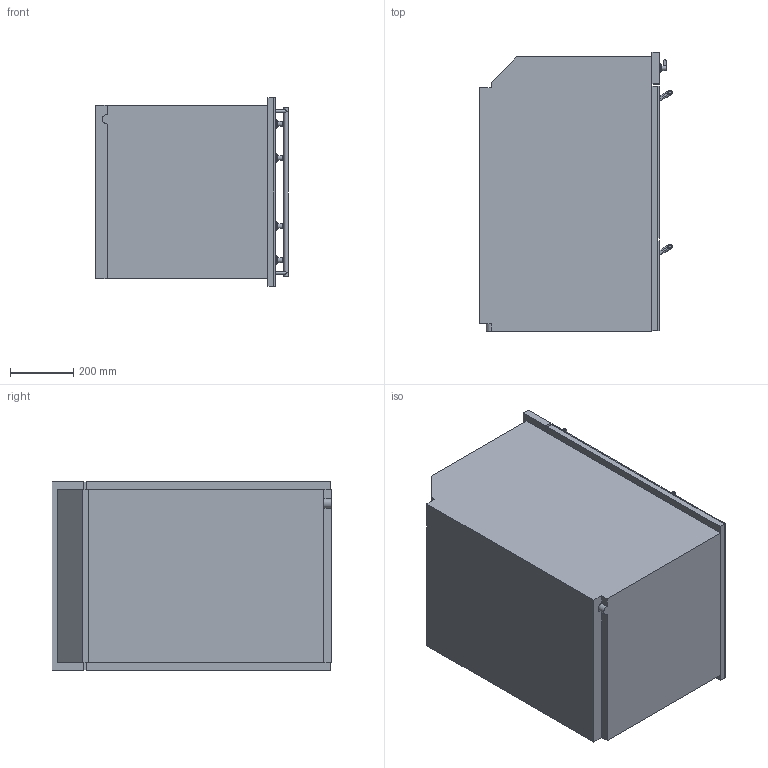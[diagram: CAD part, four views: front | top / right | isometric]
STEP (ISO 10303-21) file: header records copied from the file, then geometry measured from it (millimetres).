
FILE_DESCRIPTION(/* description */ (''),/* implementation_level */ '2;1');
FILE_NAME(/* name */ 'DOSP6390X.stp',/* time_stamp */ '2017-09-22T10:15:03+02:00',/* author */ (''),/* organization */ (''),/* preprocessor_version */ 'ST-DEVELOPER v16',/* originating_system */ 'SIEMENS PLM Software NX 11.0',/* authorisation */ '');
FILE_SCHEMA (('AUTOMOTIVE_DESIGN { 1 0 10303 214 3 1 1 1 }'));
Length unit declared in the file: millimetre
Products named in the file (1): gras316453D4o4s1
Bounding box: 609 x 884 x 597 mm (x, y, z)
Volume: 268210353.7 mm3; surface area: 6030142.2 mm2
Topology: 27 solids, 27 shells, 303 faces, 686 edges, 458 vertices
Faces by surface type: plane 195, cylinder 93, extrusion 11, cone 4
Full cylindrical faces by diameter (mm): 4 x4, 4.608 x6, 7 x4, 8.5 x8, 12 x4, 14 x2, 15 x4, 20 x4, 27 x4
Entity records: 8629 total; most frequent: CARTESIAN_POINT 1754, DIRECTION 1371, ORIENTED_EDGE 1246, EDGE_CURVE 623, AXIS2_PLACEMENT_3D 483, VERTEX_POINT 444, VECTOR 405, LINE 394
